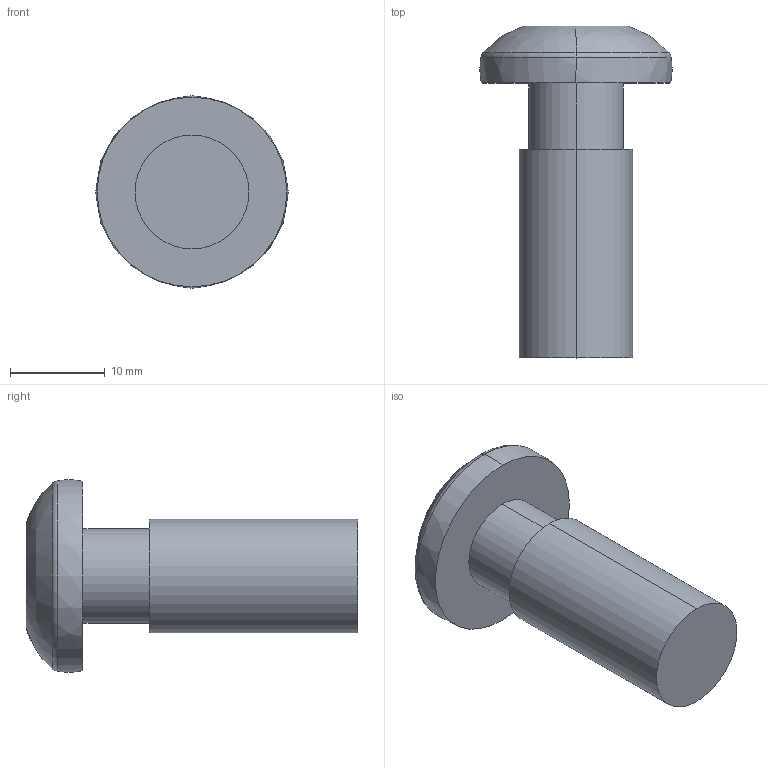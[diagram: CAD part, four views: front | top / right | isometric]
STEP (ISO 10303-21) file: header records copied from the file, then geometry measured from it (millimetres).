
FILE_DESCRIPTION (( 'STEP AP203' ), '1' );
FILE_NAME ('5255.STEP', '2017-03-01T10:01:27', ( 'RosInstal-MKM' ), ( '' ), 'SwSTEP 2.0', 'SolidWorks 2014', '' );
FILE_SCHEMA (( 'CONFIG_CONTROL_DESIGN' ));
Length unit declared in the file: millimetre
Products named in the file (1): 5255
Bounding box: 20.3 x 35 x 20.29 mm (x, y, z)
Volume: 4320.1 mm3; surface area: 2157 mm2
Topology: 1 solids, 1 shells, 21 faces, 44 edges, 28 vertices
Faces by surface type: plane 11, bspline 4, cylinder 4, torus 2
Entity records: 669 total; most frequent: CARTESIAN_POINT 146, DIRECTION 94, ORIENTED_EDGE 88, EDGE_CURVE 44, AXIS2_PLACEMENT_3D 36, VERTEX_POINT 28, EDGE_LOOP 24, VECTOR 22
